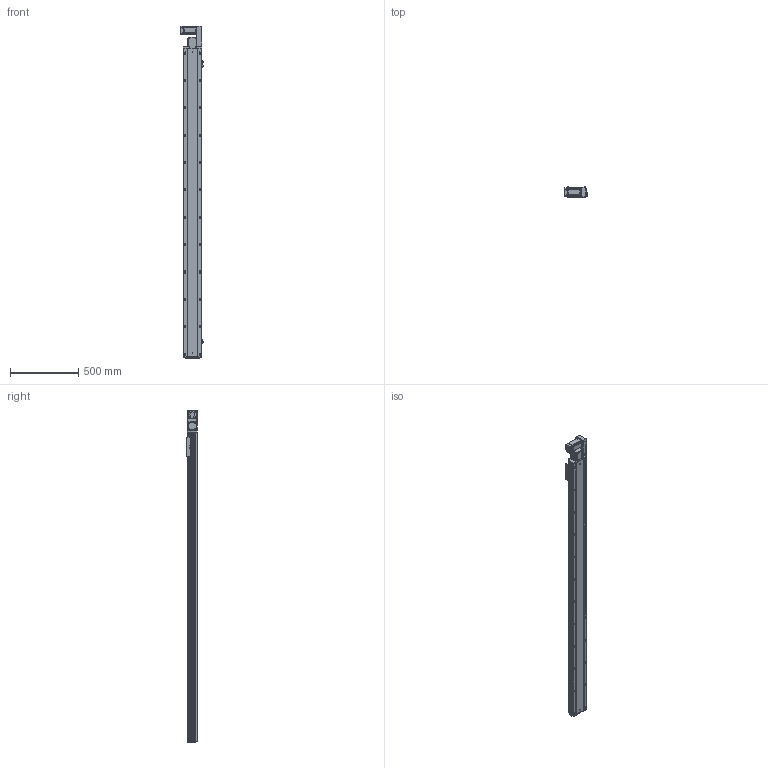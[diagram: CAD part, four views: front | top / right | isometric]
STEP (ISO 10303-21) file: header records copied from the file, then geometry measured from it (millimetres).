
FILE_DESCRIPTION (( 'STEP AP203' ), '1' );
FILE_NAME ('RY140-T-300-RK.SLDASM_2000.step', '2021-03-01T06:47:16', ( '盈信电脑' ), ( '东莞市道滘镇水果街19号' ), 'SwSTEP 2.0', 'SolidWorks 2012', '' );
FILE_SCHEMA (( 'CONFIG_CONTROL_DESIGN' ));
Length unit declared in the file: millimetre
Products named in the file (17): RY140-T-300-RK.SLDASM_2000; RY120-T主同步轮轴承压盖; 15; RY120-T蹟翐M4; RY140-T萇儂欶; RY140-T萇儂假蚾啣; RY140-T翋肮祭謫盓傅釱; 滅袉蝶18-10; RY140-T翋肮謫裔啣; RY120-T肮祭湍揤踡輸1; RY120外置感应片(140共用）; RY120-T肮祭湍揤踡輸2; 覜茼ん672; RY140綴裔啣; RY140-T-300-DR倰第奻裔啣_2000; RY140肮祭謫臏賑輸; RY140-T-300-DR倰第菁釱_2000
Assembly tree (22 placements, depth 2):
  RY140-T-300-RK.SLDASM_2000
    RY140-T-300-DR倰第菁釱_2000
    RY140肮祭謫臏賑輸
    RY140-T-300-DR倰第奻裔啣_2000
    RY140綴裔啣
    覜茼ん672  x3
    RY120外置感应片(140共用）
    RY120-T肮祭湍揤踡輸2
    RY120-T肮祭湍揤踡輸1
    RY140-T翋肮祭謫盓傅釱
    滅袉蝶18-10  x2
    RY140-T翋肮謫裔啣
    RY140-T萇儂欶
    RY140-T萇儂假蚾啣
    RY120-T蹟翐M4  x4
    15
    RY120-T主同步轮轴承压盖
Bounding box: 170.7 x 78 x 2426.5 mm (x, y, z)
Volume: 6388009.7 mm3; surface area: 2500856.6 mm2
Topology: 22 solids, 22 shells, 2891 faces, 7949 edges, 5056 vertices
Faces by surface type: plane 1385, cylinder 1116, cone 290, bspline 100
Entity records: 91414 total; most frequent: CARTESIAN_POINT 22223, ORIENTED_EDGE 14242, DIRECTION 13613, EDGE_CURVE 7121, VERTEX_POINT 4655, AXIS2_PLACEMENT_3D 4586, VECTOR 4441, LINE 4441
